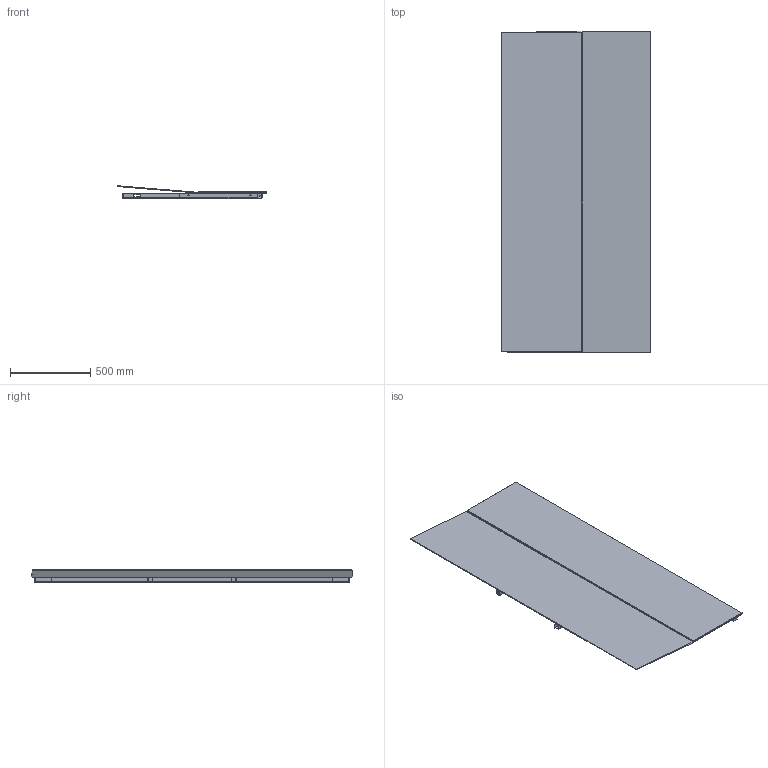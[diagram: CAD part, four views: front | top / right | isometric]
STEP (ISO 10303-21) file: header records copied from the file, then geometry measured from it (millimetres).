
FILE_DESCRIPTION(/* description */ (''),/* implementation_level */ '2;1');
FILE_NAME(/* name */ 'MGT132',/* time_stamp */ '2026-06-09T16:48:09+02:00',/* author */ (''),/* organization */ (''),/* preprocessor_version */ 'ST-DEVELOPER v16.5',/* originating_system */ '',/* authorisation */ '');
FILE_SCHEMA (('AUTOMOTIVE_DESIGN'));
Length unit declared in the file: millimetre
Products named in the file (1): Document
Bounding box: 936.9 x 2006.48 x 78.33 mm (x, y, z)
Volume: 23967374.4 mm3; surface area: 9693314.8 mm2
Topology: 10 solids, 10 shells, 208 faces, 679 edges, 434 vertices
Faces by surface type: bspline 124, plane 84
Entity records: 12443 total; most frequent: CARTESIAN_POINT 8555, ORIENTED_EDGE 1152, EDGE_CURVE 576, VERTEX_POINT 388, B_SPLINE_CURVE_WITH_KNOTS 367, EDGE_LOOP 256, ADVANCED_FACE 208, FACE_OUTER_BOUND 208
